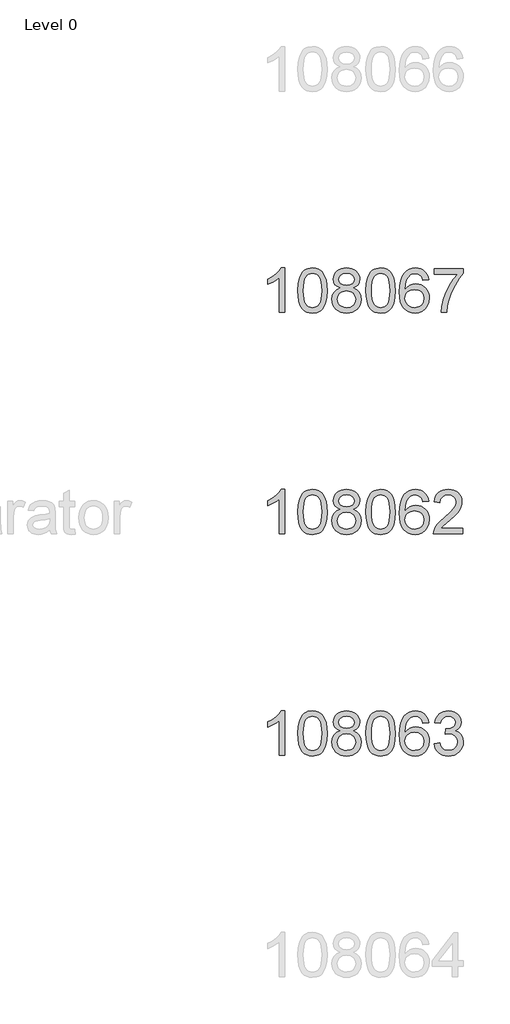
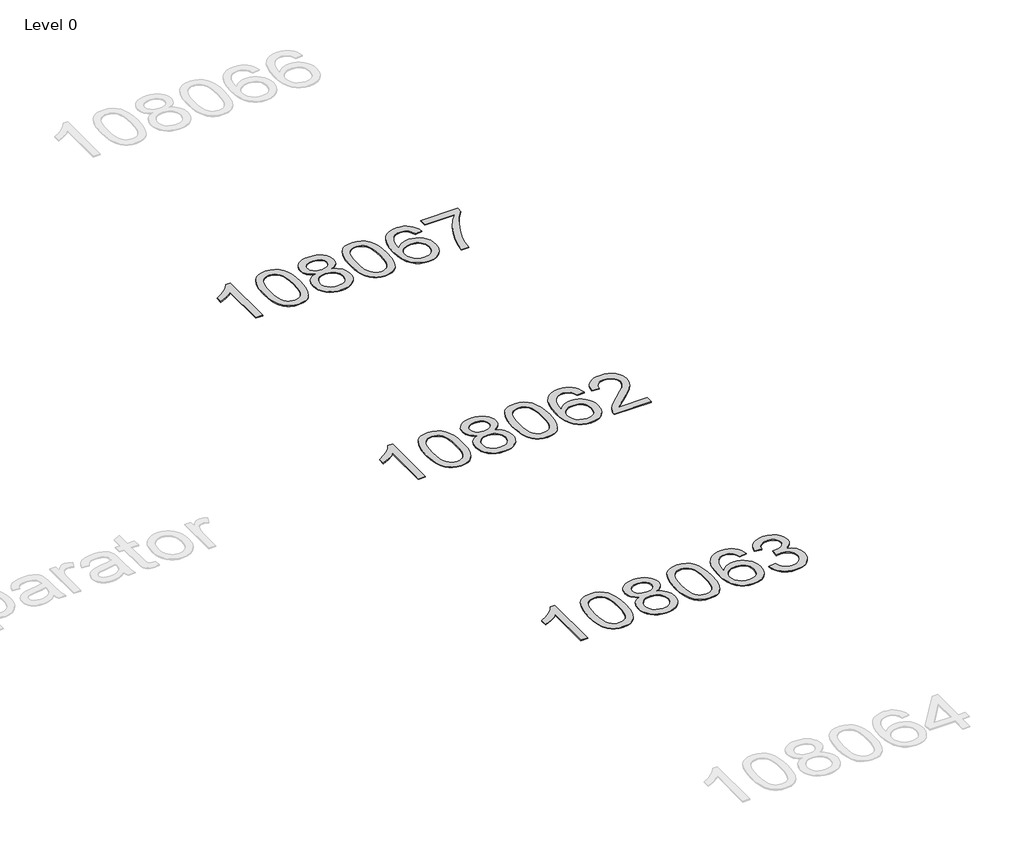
# One storey, part 4 of 9: 3 proxies.
"""IFC4 building model written with IfcOpenShell, lengths in millimetres."""

from ifc_helpers import new_model, si_unit, origin, origin_with_axes, place, context, project, spatial, polyline, outline, extrude, element, save

model = new_model("IFC4")

# Units and contexts
model_context = context("Model", 3, world=origin())
ifc_project = project(units=[si_unit("LENGTHUNIT", "METRE", prefix="MILLI")], contexts=[model_context])

# Site, building, storey
site = spatial("IfcSite", under=ifc_project)
building = spatial("IfcBuilding", under=site)
storey = spatial("IfcBuildingStorey", under=building, Name="Level 0", Elevation=0.0)

# Proxies
placement = place(None, origin())
element("IfcBuildingElementProxy", 1, Name="400mm Arial", ObjectType="400mm Arial", at=placement, inside=storey, context=model_context, shape_type="SweptSolid", body=[
    extrude(outline(polyline([(-3629.592891, 2149.0232018), (-3679.821046, 2149.0232018), (-3679.821046, 2462.1643561), (-3700.7903198, 2445.2049961), (-3727.4004508, 2428.2701616), (-3780.2773562, 2402.9108294), (-3780.2773562, 2450.3921323), (-3740.8281436, 2471.8519153), (-3706.6519062, 2497.3829258), (-3679.7106814, 2524.532617), (-3661.9665065, 2550.8484424), (-3629.592891, 2550.8484424), (-3629.592891, 2149.0232018)])), origin_with_axes(), (0.0, 0.0, 1.0), 5.0),
    extrude(outline(polyline([(-3510.3010227, 2346.6984606), (-3506.60994, 2411.0164961), (-3495.5366919, 2462.3115089), (-3477.1916431, 2501.3683141), (-3465.3335801, 2516.6016944), (-3451.6851581, 2528.9717264), (-3436.2003918, 2538.5427897), (-3418.8332959, 2545.3792634), (-3378.4521156, 2550.8484424), (-3347.5009771, 2547.6110809), (-3319.7872001, 2537.8989962), (-3296.6106344, 2522.0923331), (-3279.2711297, 2500.5712364), (-3266.1745307, 2473.519647), (-3255.726682, 2441.121506), (-3248.8840769, 2399.9800362), (-3246.6032085, 2346.6984606), (-3250.257503, 2282.7483071), (-3261.2203865, 2231.5759215), (-3279.4550707, 2192.4823282), (-3291.2855425, 2177.2029627), (-3304.9247675, 2164.7685512), (-3320.4279279, 2155.1331086), (-3337.8502061, 2148.2506496), (-3378.4521156, 2142.7446824), (-3406.1168416, 2145.1359154), (-3430.642308, 2152.3096143), (-3452.0285146, 2164.2657792), (-3470.2754616, 2181.0044099), (-3487.7866446, 2211.262704), (-3500.2946324, 2248.9644772), (-3507.7994251, 2294.1097294), (-3510.3010227, 2346.6984606)]), holes=[polyline([(-3460.0728676, 2346.7965624), (-3458.6013396, 2303.1320353), (-3454.1867557, 2267.7877726), (-3446.8291158, 2240.7637744), (-3436.5284199, 2222.0600406), (-3424.069483, 2209.3343892), (-3410.23712, 2200.2446383), (-3395.0313308, 2194.7907877), (-3378.4521156, 2192.9728375), (-3361.8729003, 2194.7969191), (-3346.6671112, 2200.2691637), (-3332.8347482, 2209.3895715), (-3320.3758113, 2222.1581425), (-3310.0751154, 2240.8925331), (-3302.7174755, 2267.9103999), (-3298.3028916, 2303.2117431), (-3296.8313636, 2346.7965624), (-3298.2538406, 2389.305327), (-3302.5212718, 2424.0272559), (-3309.633657, 2450.9623494), (-3319.5909964, 2470.1106072), (-3331.8414668, 2483.4585923), (-3345.8332454, 2492.9928673), (-3361.566332, 2498.7134323), (-3379.0407268, 2500.6202873), (-3395.5341029, 2498.9402929), (-3410.4823746, 2493.9003096), (-3423.885542, 2485.5003373), (-3435.743605, 2473.7403762), (-3446.3876574, 2452.8937298), (-3453.9905519, 2424.7875454), (-3458.5522887, 2389.4218229), (-3460.0728676, 2346.7965624)])]), origin_with_axes(), (0.0, 0.0, 1.0), 5.0),
    extrude(outline(polyline([(-3129.4695813, 2370.3410101), (-3156.3617551, 2383.5847619), (-3175.2341015, 2401.5374033), (-3186.3809259, 2423.8310522), (-3190.0965341, 2450.0978267), (-3188.0731831, 2470.5827224), (-3182.0031302, 2489.3630983), (-3171.8863753, 2506.4389542), (-3157.7229185, 2521.8102903), (-3140.1933414, 2534.5144818), (-3119.9782258, 2543.5889044), (-3097.0775716, 2549.0335579), (-3071.4913788, 2550.8484424), (-3045.7825587, 2548.9906383), (-3022.7102263, 2543.4172261), (-3002.2743814, 2534.1282057), (-2984.4750242, 2521.1235772), (-2970.05405, 2505.4518042), (-2959.7533542, 2488.1613504), (-2953.5729366, 2469.2522159), (-2951.5127975, 2448.7244006), (-2955.1793547, 2423.3037547), (-2966.1790263, 2401.3902505), (-2984.6344398, 2383.5479737), (-3010.6682223, 2370.3410101), (-2979.753872, 2354.4117197), (-2957.2517566, 2330.9531112), (-2943.5297582, 2301.0933559), (-2938.9557587, 2265.9606254), (-2941.2243643, 2240.9078615), (-2948.0301812, 2217.9397623), (-2959.3732094, 2197.0563277), (-2975.2534489, 2178.2575577), (-2994.8370338, 2162.7206748), (-3017.2900982, 2151.6229013), (-3042.6126422, 2144.9642371), (-3070.8046658, 2142.7446824), (-3098.9966893, 2144.9734342), (-3124.3192333, 2151.6596895), (-3146.7722978, 2162.8034482), (-3166.3558826, 2178.4047105), (-3182.2361221, 2197.3353048), (-3193.5791503, 2218.4670598), (-3200.3849672, 2241.7999753), (-3202.6535728, 2267.3340515), (-3197.8956324, 2303.8279454), (-3183.621811, 2333.8471162), (-3160.5678726, 2356.3614943), (-3129.4695813, 2370.3410101)]), holes=[polyline([(-3139.868379, 2448.6262987), (-3135.4170068, 2426.7005318), (-3122.0628904, 2409.1893488), (-3100.1984372, 2397.7114306), (-3070.2160546, 2393.8854578), (-3040.9326478, 2397.6869051), (-3019.3992883, 2409.0912469), (-3006.1555365, 2426.0138187), (-3001.7409525, 2446.3699558), (-3006.3026893, 2467.498645), (-3019.9878995, 2484.9730398), (-3041.8155645, 2496.7084755), (-3070.8046658, 2500.6202873), (-3099.977708, 2496.7943146), (-3121.7685848, 2485.3163963), (-3135.3434305, 2468.4919264), (-3139.868379, 2448.6262987)]), polyline([(-3152.4254178, 2269.099885), (-3150.3284904, 2249.8841822), (-3144.0377083, 2231.2816159), (-3132.4249, 2215.05802), (-3114.361894, 2202.9792278), (-3092.7304327, 2195.4744351), (-3070.4122583, 2192.9728375), (-3036.2237582, 2198.23355), (-3022.3300815, 2204.8094407), (-3010.5701204, 2214.0156876), (-2994.5304654, 2237.9157546), (-2989.1839138, 2267.5302552), (-2994.7021437, 2297.6475279), (-3011.2568335, 2322.0748924), (-3023.3356257, 2331.5171969), (-3037.4990825, 2338.2617001), (-3072.07999, 2343.6573027), (-3105.7902435, 2338.3352765), (-3119.5275703, 2331.6827438), (-3131.1863639, 2322.3691979), (-3147.1156543, 2298.4078173), (-3152.4254178, 2269.099885)])]), origin_with_axes(), (0.0, 0.0, 1.0), 5.0),
    extrude(outline(polyline([(-2895.006123, 2346.6984606), (-2891.3150403, 2411.0164961), (-2880.2417923, 2462.3115089), (-2861.8967434, 2501.3683141), (-2850.0386805, 2516.6016944), (-2836.3902584, 2528.9717264), (-2820.9054921, 2538.5427897), (-2803.5383963, 2545.3792634), (-2763.1572159, 2550.8484424), (-2732.2060774, 2547.6110809), (-2704.4923004, 2537.8989962), (-2681.3157347, 2522.0923331), (-2663.97623, 2500.5712364), (-2650.879631, 2473.519647), (-2640.4317823, 2441.121506), (-2633.5891772, 2399.9800362), (-2631.3083089, 2346.6984606), (-2634.9626033, 2282.7483071), (-2645.9254868, 2231.5759215), (-2664.160171, 2192.4823282), (-2675.9906429, 2177.2029627), (-2689.6298678, 2164.7685512), (-2705.1330282, 2155.1331086), (-2722.5553064, 2148.2506496), (-2763.1572159, 2142.7446824), (-2790.821942, 2145.1359154), (-2815.3474083, 2152.3096143), (-2836.733615, 2164.2657792), (-2854.9805619, 2181.0044099), (-2872.4917449, 2211.262704), (-2884.9997327, 2248.9644772), (-2892.5045254, 2294.1097294), (-2895.006123, 2346.6984606)]), holes=[polyline([(-2844.7779679, 2346.7965624), (-2843.3064399, 2303.1320353), (-2838.891856, 2267.7877726), (-2831.5342161, 2240.7637744), (-2821.2335202, 2222.0600406), (-2808.7745833, 2209.3343892), (-2794.9422203, 2200.2446383), (-2779.7364312, 2194.7907877), (-2763.1572159, 2192.9728375), (-2746.5780007, 2194.7969191), (-2731.3722115, 2200.2691637), (-2717.5398485, 2209.3895715), (-2705.0809116, 2222.1581425), (-2694.7802158, 2240.8925331), (-2687.4225759, 2267.9103999), (-2683.0079919, 2303.2117431), (-2681.5364639, 2346.7965624), (-2682.958941, 2389.305327), (-2687.2263721, 2424.0272559), (-2694.3387574, 2450.9623494), (-2704.2960967, 2470.1106072), (-2716.5465671, 2483.4585923), (-2730.5383457, 2492.9928673), (-2746.2714324, 2498.7134323), (-2763.7458271, 2500.6202873), (-2780.2392032, 2498.9402929), (-2795.187475, 2493.9003096), (-2808.5906423, 2485.5003373), (-2820.4487053, 2473.7403762), (-2831.0927577, 2452.8937298), (-2838.6956523, 2424.7875454), (-2843.257389, 2389.4218229), (-2844.7779679, 2346.7965624)])]), origin_with_axes(), (0.0, 0.0, 1.0), 5.0),
    extrude(outline(polyline([(-2329.9393784, 2444.1136129), (-2380.1675335, 2437.8350935), (-2388.2609374, 2462.7284418), (-2399.1992954, 2479.72459), (-2421.9834536, 2495.396363), (-2449.5255523, 2500.6202873), (-2472.8737963, 2497.5791295), (-2494.8486141, 2488.455656), (-2513.7209605, 2469.2399532), (-2529.1352161, 2442.7892377), (-2539.5462765, 2405.3756388), (-2543.4090375, 2353.2712855), (-2523.2613669, 2376.778945), (-2499.1160453, 2393.3458976), (-2472.3219733, 2403.1683468), (-2444.2280516, 2406.4424966), (-2420.0949927, 2404.2045478), (-2397.8258693, 2397.4907014), (-2377.4206813, 2386.3009573), (-2358.8794287, 2370.6353157), (-2343.4713045, 2351.4257442), (-2332.4655014, 2329.6042105), (-2325.8620196, 2305.1707147), (-2323.660859, 2278.1252567), (-2327.8056628, 2242.1586603), (-2340.2400743, 2208.8162888), (-2359.9340238, 2180.5384261), (-2385.8574417, 2159.7653561), (-2416.8331057, 2146.9998508), (-2451.6837933, 2142.7446824), (-2481.6263221, 2145.5651111), (-2508.6687144, 2154.026397), (-2532.8109703, 2168.1285401), (-2554.0530899, 2187.8715405), (-2571.3711348, 2214.089264), (-2583.7411669, 2247.6155765), (-2591.1631861, 2288.450478), (-2593.6371926, 2336.5939684), (-2590.8903403, 2390.5683885), (-2582.6497836, 2436.6333457), (-2568.9155225, 2474.7888399), (-2549.6875569, 2505.0348713), (-2528.8470418, 2525.0783087), (-2504.6833261, 2539.3950496), (-2477.1964097, 2547.9850942), (-2446.3862926, 2550.8484424), (-2423.2526465, 2549.0764775), (-2402.3140296, 2543.7605826), (-2383.5704419, 2534.9007579), (-2367.0218835, 2522.4970033), (-2353.1159441, 2506.9662518), (-2342.3002134, 2488.7254362), (-2334.5746915, 2467.7745565), (-2329.9393784, 2444.1136129)]), holes=[polyline([(-2543.4090375, 2278.9100716), (-2540.5027697, 2256.6532109), (-2531.7839664, 2235.4018943), (-2518.245909, 2217.1304219), (-2500.8818788, 2203.8130936), (-2479.9248678, 2195.6829015), (-2455.607868, 2192.9728375), (-2422.4617002, 2198.5891693), (-2408.5465637, 2205.609584), (-2396.4033922, 2215.4381647), (-2386.5533518, 2227.6763724), (-2379.5176086, 2241.9256683), (-2373.8890141, 2276.457525), (-2379.4440322, 2309.6036927), (-2386.3878049, 2323.2245236), (-2396.1090866, 2334.8771858), (-2408.2890463, 2344.2121914), (-2422.608853, 2350.8800526), (-2457.6680071, 2356.2143415), (-2490.765124, 2350.8800526), (-2518.4421127, 2334.8771858), (-2529.3651423, 2323.3778078), (-2537.1673063, 2310.2168294), (-2541.8486047, 2295.3942507), (-2543.4090375, 2278.9100716)])]), origin_with_axes(), (0.0, 0.0, 1.0), 5.0),
    extrude(outline(polyline([(-2022.2919286, 2199.2513569), (-2022.2919286, 2149.0232018), (-2285.9897427, 2149.0232018), (-2284.8860967, 2166.7060631), (-2280.5941401, 2183.6531603), (-2268.2087796, 2210.7170124), (-2250.08446, 2236.9715241), (-2223.8667365, 2264.4523092), (-2187.2011643, 2295.1949812), (-2132.9998837, 2343.3384717), (-2100.4791153, 2378.8758724), (-2084.2187311, 2407.7178208), (-2078.798603, 2435.7749543), (-2083.9121628, 2460.9258201), (-2099.252842, 2481.8337801), (-2122.8340779, 2495.9236605), (-2152.6693077, 2500.6202873), (-2184.0005909, 2496.0340251), (-2208.3421163, 2482.2752385), (-2224.0506775, 2460.423048), (-2229.4830683, 2431.5565741), (-2279.7112233, 2437.8350935), (-2275.3916756, 2463.7646428), (-2267.5343293, 2486.4200423), (-2256.1391845, 2505.8012921), (-2241.2062412, 2521.9083921), (-2223.0788559, 2534.5696641), (-2202.1003851, 2543.6134298), (-2178.2708288, 2549.0396893), (-2151.5901871, 2550.8484424), (-2124.6704222, 2548.8373542), (-2100.7121072, 2542.8040895), (-2079.7152423, 2532.7486483), (-2061.6798275, 2518.6710306), (-2047.194474, 2501.6135687), (-2036.8477929, 2482.618595), (-2030.6397842, 2461.6861095), (-2028.570448, 2438.8161122), (-2030.8022654, 2414.7934179), (-2037.4977177, 2391.1876565), (-2049.3803062, 2367.177225), (-2067.173532, 2341.9405201), (-2095.5372338, 2311.8109847), (-2139.1312502, 2273.1220615), (-2196.913249, 2224.8068928), (-2219.5747799, 2199.2513569), (-2022.2919286, 2199.2513569)])), origin_with_axes(), (0.0, 0.0, 1.0), 5.0),
])
element("IfcBuildingElementProxy", 2, Name="400mm Arial", ObjectType="400mm Arial", at=placement, inside=storey, context=model_context, shape_type="SweptSolid", body=[
    extrude(outline(polyline([(-3629.592891, 149.0232018), (-3679.821046, 149.0232018), (-3679.821046, 462.1643561), (-3700.7903198, 445.2049961), (-3727.4004508, 428.2701616), (-3780.2773562, 402.9108294), (-3780.2773562, 450.3921323), (-3740.8281436, 471.8519153), (-3706.6519062, 497.3829258), (-3679.7106814, 524.532617), (-3661.9665065, 550.8484424), (-3629.592891, 550.8484424), (-3629.592891, 149.0232018)])), origin_with_axes(), (0.0, 0.0, 1.0), 5.0),
    extrude(outline(polyline([(-3510.3010227, 346.6984606), (-3506.60994, 411.0164961), (-3495.5366919, 462.3115089), (-3477.1916431, 501.3683141), (-3465.3335801, 516.6016944), (-3451.6851581, 528.9717264), (-3436.2003918, 538.5427897), (-3418.8332959, 545.3792634), (-3378.4521156, 550.8484424), (-3347.5009771, 547.6110809), (-3319.7872001, 537.8989962), (-3296.6106344, 522.0923331), (-3279.2711297, 500.5712364), (-3266.1745307, 473.519647), (-3255.726682, 441.121506), (-3248.8840769, 399.9800362), (-3246.6032085, 346.6984606), (-3250.257503, 282.7483071), (-3261.2203865, 231.5759215), (-3279.4550707, 192.4823282), (-3291.2855425, 177.2029627), (-3304.9247675, 164.7685512), (-3320.4279279, 155.1331086), (-3337.8502061, 148.2506496), (-3378.4521156, 142.7446824), (-3406.1168416, 145.1359154), (-3430.642308, 152.3096143), (-3452.0285146, 164.2657792), (-3470.2754616, 181.0044099), (-3487.7866446, 211.262704), (-3500.2946324, 248.9644772), (-3507.7994251, 294.1097294), (-3510.3010227, 346.6984606)]), holes=[polyline([(-3460.0728676, 346.7965624), (-3458.6013396, 303.1320353), (-3454.1867557, 267.7877726), (-3446.8291158, 240.7637744), (-3436.5284199, 222.0600406), (-3424.069483, 209.3343892), (-3410.23712, 200.2446383), (-3395.0313308, 194.7907877), (-3378.4521156, 192.9728375), (-3361.8729003, 194.7969191), (-3346.6671112, 200.2691637), (-3332.8347482, 209.3895715), (-3320.3758113, 222.1581425), (-3310.0751154, 240.8925331), (-3302.7174755, 267.9103999), (-3298.3028916, 303.2117431), (-3296.8313636, 346.7965624), (-3298.2538406, 389.305327), (-3302.5212718, 424.0272559), (-3309.633657, 450.9623494), (-3319.5909964, 470.1106072), (-3331.8414668, 483.4585923), (-3345.8332454, 492.9928673), (-3361.566332, 498.7134323), (-3379.0407268, 500.6202873), (-3395.5341029, 498.9402929), (-3410.4823746, 493.9003096), (-3423.885542, 485.5003373), (-3435.743605, 473.7403762), (-3446.3876574, 452.8937298), (-3453.9905519, 424.7875454), (-3458.5522887, 389.4218229), (-3460.0728676, 346.7965624)])]), origin_with_axes(), (0.0, 0.0, 1.0), 5.0),
    extrude(outline(polyline([(-3129.4695813, 370.3410101), (-3156.3617551, 383.5847619), (-3175.2341015, 401.5374033), (-3186.3809259, 423.8310522), (-3190.0965341, 450.0978267), (-3188.0731831, 470.5827224), (-3182.0031302, 489.3630983), (-3171.8863753, 506.4389542), (-3157.7229185, 521.8102903), (-3140.1933414, 534.5144818), (-3119.9782258, 543.5889044), (-3097.0775716, 549.0335579), (-3071.4913788, 550.8484424), (-3045.7825587, 548.9906383), (-3022.7102263, 543.4172261), (-3002.2743814, 534.1282057), (-2984.4750242, 521.1235772), (-2970.05405, 505.4518042), (-2959.7533542, 488.1613504), (-2953.5729366, 469.2522159), (-2951.5127975, 448.7244006), (-2955.1793547, 423.3037547), (-2966.1790263, 401.3902505), (-2984.6344398, 383.5479737), (-3010.6682223, 370.3410101), (-2979.753872, 354.4117197), (-2957.2517566, 330.9531112), (-2943.5297582, 301.0933559), (-2938.9557587, 265.9606254), (-2941.2243643, 240.9078615), (-2948.0301812, 217.9397623), (-2959.3732094, 197.0563277), (-2975.2534489, 178.2575577), (-2994.8370338, 162.7206748), (-3017.2900982, 151.6229013), (-3042.6126422, 144.9642371), (-3070.8046658, 142.7446824), (-3098.9966893, 144.9734342), (-3124.3192333, 151.6596895), (-3146.7722978, 162.8034482), (-3166.3558826, 178.4047105), (-3182.2361221, 197.3353048), (-3193.5791503, 218.4670598), (-3200.3849672, 241.7999753), (-3202.6535728, 267.3340515), (-3197.8956324, 303.8279454), (-3183.621811, 333.8471162), (-3160.5678726, 356.3614943), (-3129.4695813, 370.3410101)]), holes=[polyline([(-3139.868379, 448.6262987), (-3135.4170068, 426.7005318), (-3122.0628904, 409.1893488), (-3100.1984372, 397.7114306), (-3070.2160546, 393.8854578), (-3040.9326478, 397.6869051), (-3019.3992883, 409.0912469), (-3006.1555365, 426.0138187), (-3001.7409525, 446.3699558), (-3006.3026893, 467.498645), (-3019.9878995, 484.9730398), (-3041.8155645, 496.7084755), (-3070.8046658, 500.6202873), (-3099.977708, 496.7943146), (-3121.7685848, 485.3163963), (-3135.3434305, 468.4919264), (-3139.868379, 448.6262987)]), polyline([(-3152.4254178, 269.099885), (-3150.3284904, 249.8841822), (-3144.0377083, 231.2816159), (-3132.4249, 215.05802), (-3114.361894, 202.9792278), (-3092.7304327, 195.4744351), (-3070.4122583, 192.9728375), (-3036.2237582, 198.23355), (-3022.3300815, 204.8094407), (-3010.5701204, 214.0156876), (-2994.5304654, 237.9157546), (-2989.1839138, 267.5302552), (-2994.7021437, 297.6475279), (-3011.2568335, 322.0748924), (-3023.3356257, 331.5171969), (-3037.4990825, 338.2617001), (-3072.07999, 343.6573027), (-3105.7902435, 338.3352765), (-3119.5275703, 331.6827438), (-3131.1863639, 322.3691979), (-3147.1156543, 298.4078173), (-3152.4254178, 269.099885)])]), origin_with_axes(), (0.0, 0.0, 1.0), 5.0),
    extrude(outline(polyline([(-2895.006123, 346.6984606), (-2891.3150403, 411.0164961), (-2880.2417923, 462.3115089), (-2861.8967434, 501.3683141), (-2850.0386805, 516.6016944), (-2836.3902584, 528.9717264), (-2820.9054921, 538.5427897), (-2803.5383963, 545.3792634), (-2763.1572159, 550.8484424), (-2732.2060774, 547.6110809), (-2704.4923004, 537.8989962), (-2681.3157347, 522.0923331), (-2663.97623, 500.5712364), (-2650.879631, 473.519647), (-2640.4317823, 441.121506), (-2633.5891772, 399.9800362), (-2631.3083089, 346.6984606), (-2634.9626033, 282.7483071), (-2645.9254868, 231.5759215), (-2664.160171, 192.4823282), (-2675.9906429, 177.2029627), (-2689.6298678, 164.7685512), (-2705.1330282, 155.1331086), (-2722.5553064, 148.2506496), (-2763.1572159, 142.7446824), (-2790.821942, 145.1359154), (-2815.3474083, 152.3096143), (-2836.733615, 164.2657792), (-2854.9805619, 181.0044099), (-2872.4917449, 211.262704), (-2884.9997327, 248.9644772), (-2892.5045254, 294.1097294), (-2895.006123, 346.6984606)]), holes=[polyline([(-2844.7779679, 346.7965624), (-2843.3064399, 303.1320353), (-2838.891856, 267.7877726), (-2831.5342161, 240.7637744), (-2821.2335202, 222.0600406), (-2808.7745833, 209.3343892), (-2794.9422203, 200.2446383), (-2779.7364312, 194.7907877), (-2763.1572159, 192.9728375), (-2746.5780007, 194.7969191), (-2731.3722115, 200.2691637), (-2717.5398485, 209.3895715), (-2705.0809116, 222.1581425), (-2694.7802158, 240.8925331), (-2687.4225759, 267.9103999), (-2683.0079919, 303.2117431), (-2681.5364639, 346.7965624), (-2682.958941, 389.305327), (-2687.2263721, 424.0272559), (-2694.3387574, 450.9623494), (-2704.2960967, 470.1106072), (-2716.5465671, 483.4585923), (-2730.5383457, 492.9928673), (-2746.2714324, 498.7134323), (-2763.7458271, 500.6202873), (-2780.2392032, 498.9402929), (-2795.187475, 493.9003096), (-2808.5906423, 485.5003373), (-2820.4487053, 473.7403762), (-2831.0927577, 452.8937298), (-2838.6956523, 424.7875454), (-2843.257389, 389.4218229), (-2844.7779679, 346.7965624)])]), origin_with_axes(), (0.0, 0.0, 1.0), 5.0),
    extrude(outline(polyline([(-2329.9393784, 444.1136129), (-2380.1675335, 437.8350935), (-2388.2609374, 462.7284418), (-2399.1992954, 479.72459), (-2421.9834536, 495.396363), (-2449.5255523, 500.6202873), (-2472.8737963, 497.5791295), (-2494.8486141, 488.455656), (-2513.7209605, 469.2399532), (-2529.1352161, 442.7892377), (-2539.5462765, 405.3756388), (-2543.4090375, 353.2712855), (-2523.2613669, 376.778945), (-2499.1160453, 393.3458976), (-2472.3219733, 403.1683468), (-2444.2280516, 406.4424966), (-2420.0949927, 404.2045478), (-2397.8258693, 397.4907014), (-2377.4206813, 386.3009573), (-2358.8794287, 370.6353157), (-2343.4713045, 351.4257442), (-2332.4655014, 329.6042105), (-2325.8620196, 305.1707147), (-2323.660859, 278.1252567), (-2327.8056628, 242.1586603), (-2340.2400743, 208.8162888), (-2359.9340238, 180.5384261), (-2385.8574417, 159.7653561), (-2416.8331057, 146.9998508), (-2451.6837933, 142.7446824), (-2481.6263221, 145.5651111), (-2508.6687144, 154.026397), (-2532.8109703, 168.1285401), (-2554.0530899, 187.8715405), (-2571.3711348, 214.089264), (-2583.7411669, 247.6155765), (-2591.1631861, 288.450478), (-2593.6371926, 336.5939684), (-2590.8903403, 390.5683885), (-2582.6497836, 436.6333457), (-2568.9155225, 474.7888399), (-2549.6875569, 505.0348713), (-2528.8470418, 525.0783087), (-2504.6833261, 539.3950496), (-2477.1964097, 547.9850942), (-2446.3862926, 550.8484424), (-2423.2526465, 549.0764775), (-2402.3140296, 543.7605826), (-2383.5704419, 534.9007579), (-2367.0218835, 522.4970033), (-2353.1159441, 506.9662518), (-2342.3002134, 488.7254362), (-2334.5746915, 467.7745565), (-2329.9393784, 444.1136129)]), holes=[polyline([(-2543.4090375, 278.9100716), (-2540.5027697, 256.6532109), (-2531.7839664, 235.4018943), (-2518.245909, 217.1304219), (-2500.8818788, 203.8130936), (-2479.9248678, 195.6829015), (-2455.607868, 192.9728375), (-2422.4617002, 198.5891693), (-2408.5465637, 205.609584), (-2396.4033922, 215.4381647), (-2386.5533518, 227.6763724), (-2379.5176086, 241.9256683), (-2373.8890141, 276.457525), (-2379.4440322, 309.6036927), (-2386.3878049, 323.2245236), (-2396.1090866, 334.8771858), (-2408.2890463, 344.2121914), (-2422.608853, 350.8800526), (-2457.6680071, 356.2143415), (-2490.765124, 350.8800526), (-2518.4421127, 334.8771858), (-2529.3651423, 323.3778078), (-2537.1673063, 310.2168294), (-2541.8486047, 295.3942507), (-2543.4090375, 278.9100716)])]), origin_with_axes(), (0.0, 0.0, 1.0), 5.0),
    extrude(outline(polyline([(-2279.7112233, 255.7580314), (-2229.4830683, 262.0365507), (-2218.2381419, 230.4722756), (-2201.7692913, 209.1596453), (-2179.2671759, 197.0195395), (-2149.9224554, 192.9728375), (-2115.4887007, 198.5401184), (-2101.2148793, 205.4992194), (-2088.9030952, 215.241961), (-2071.906947, 240.1598348), (-2066.2415643, 270.3752093), (-2071.8578961, 299.0577422), (-2088.7068914, 322.320147), (-2114.2133764, 337.7344026), (-2145.8021771, 342.8724878), (-2181.0207468, 337.3787834), (-2175.4289404, 387.6069384), (-2167.3845875, 387.0183272), (-2137.2918403, 390.6235708), (-2110.3874037, 401.4393014), (-2099.3141556, 409.6185445), (-2091.4046927, 419.7352993), (-2086.659015, 431.789566), (-2085.0771224, 445.7813446), (-2089.6633846, 467.4741196), (-2103.4221712, 485.0711417), (-2124.4159704, 496.7330009), (-2150.7072704, 500.6202873), (-2177.0476212, 496.6962127), (-2198.5809807, 484.9239889), (-2214.3018046, 465.3036158), (-2223.2045489, 437.8350935), (-2273.432704, 444.1136129), (-2267.479147, 468.0933876), (-2258.6438477, 489.2159455), (-2246.9268062, 507.4812866), (-2232.3280224, 522.8894108), (-2215.3073487, 535.1214871), (-2196.3246378, 543.8586845), (-2175.3798895, 549.1010029), (-2152.4731039, 550.8484424), (-2120.896566, 547.4026144), (-2091.8952021, 537.0651303), (-2067.4433121, 520.7556952), (-2049.5151962, 499.394014), (-2038.5155246, 474.7827086), (-2034.8489673, 448.7244006), (-2038.3315836, 424.4441889), (-2048.7794322, 402.4203201), (-2066.0453605, 383.6583383), (-2089.9822157, 369.1637877), (-2058.5405678, 356.4595962), (-2035.2413748, 334.8281349), (-2020.8204006, 305.4466262), (-2016.0134092, 269.4922925), (-2018.4169049, 244.010333), (-2025.627392, 220.5394617), (-2037.6448705, 199.0796786), (-2054.4693404, 179.6309838), (-2074.9664989, 163.493227), (-2098.0020432, 151.9662578), (-2123.5759732, 145.0500763), (-2151.688289, 142.7446824), (-2177.0966721, 144.7128511), (-2200.2487124, 150.6173571), (-2221.1444097, 160.4582005), (-2239.7837641, 174.2353812), (-2255.4126176, 191.1395589), (-2267.2768119, 210.3613932), (-2275.3763472, 231.900884), (-2279.7112233, 255.7580314)])), origin_with_axes(), (0.0, 0.0, 1.0), 5.0),
])
element("IfcBuildingElementProxy", 3, Name="400mm Arial", ObjectType="400mm Arial", at=placement, inside=storey, context=model_context, shape_type="SweptSolid", body=[
    extrude(outline(polyline([(-3629.592891, 4149.0232018), (-3679.821046, 4149.0232018), (-3679.821046, 4462.1643561), (-3700.7903198, 4445.2049961), (-3727.4004508, 4428.2701616), (-3780.2773562, 4402.9108294), (-3780.2773562, 4450.3921323), (-3740.8281436, 4471.8519153), (-3706.6519062, 4497.3829258), (-3679.7106814, 4524.532617), (-3661.9665065, 4550.8484424), (-3629.592891, 4550.8484424), (-3629.592891, 4149.0232018)])), origin_with_axes(), (0.0, 0.0, 1.0), 5.0),
    extrude(outline(polyline([(-3510.3010227, 4346.6984606), (-3506.60994, 4411.0164961), (-3495.5366919, 4462.3115089), (-3477.1916431, 4501.3683141), (-3465.3335801, 4516.6016944), (-3451.6851581, 4528.9717264), (-3436.2003918, 4538.5427897), (-3418.8332959, 4545.3792634), (-3378.4521156, 4550.8484424), (-3347.5009771, 4547.6110809), (-3319.7872001, 4537.8989962), (-3296.6106344, 4522.0923331), (-3279.2711297, 4500.5712364), (-3266.1745307, 4473.519647), (-3255.726682, 4441.121506), (-3248.8840769, 4399.9800362), (-3246.6032085, 4346.6984606), (-3250.257503, 4282.7483071), (-3261.2203865, 4231.5759215), (-3279.4550707, 4192.4823282), (-3291.2855425, 4177.2029627), (-3304.9247675, 4164.7685512), (-3320.4279279, 4155.1331086), (-3337.8502061, 4148.2506496), (-3378.4521156, 4142.7446824), (-3406.1168416, 4145.1359154), (-3430.642308, 4152.3096143), (-3452.0285146, 4164.2657792), (-3470.2754616, 4181.0044099), (-3487.7866446, 4211.262704), (-3500.2946324, 4248.9644772), (-3507.7994251, 4294.1097294), (-3510.3010227, 4346.6984606)]), holes=[polyline([(-3460.0728676, 4346.7965624), (-3458.6013396, 4303.1320353), (-3454.1867557, 4267.7877726), (-3446.8291158, 4240.7637744), (-3436.5284199, 4222.0600406), (-3424.069483, 4209.3343892), (-3410.23712, 4200.2446383), (-3395.0313308, 4194.7907877), (-3378.4521156, 4192.9728375), (-3361.8729003, 4194.7969191), (-3346.6671112, 4200.2691637), (-3332.8347482, 4209.3895715), (-3320.3758113, 4222.1581425), (-3310.0751154, 4240.8925331), (-3302.7174755, 4267.9103999), (-3298.3028916, 4303.2117431), (-3296.8313636, 4346.7965624), (-3298.2538406, 4389.305327), (-3302.5212718, 4424.0272559), (-3309.633657, 4450.9623494), (-3319.5909964, 4470.1106072), (-3331.8414668, 4483.4585923), (-3345.8332454, 4492.9928673), (-3361.566332, 4498.7134323), (-3379.0407268, 4500.6202873), (-3395.5341029, 4498.9402929), (-3410.4823746, 4493.9003096), (-3423.885542, 4485.5003373), (-3435.743605, 4473.7403762), (-3446.3876574, 4452.8937298), (-3453.9905519, 4424.7875454), (-3458.5522887, 4389.4218229), (-3460.0728676, 4346.7965624)])]), origin_with_axes(), (0.0, 0.0, 1.0), 5.0),
    extrude(outline(polyline([(-3129.4695813, 4370.3410101), (-3156.3617551, 4383.5847619), (-3175.2341015, 4401.5374033), (-3186.3809259, 4423.8310522), (-3190.0965341, 4450.0978267), (-3188.0731831, 4470.5827224), (-3182.0031302, 4489.3630983), (-3171.8863753, 4506.4389542), (-3157.7229185, 4521.8102903), (-3140.1933414, 4534.5144818), (-3119.9782258, 4543.5889044), (-3097.0775716, 4549.0335579), (-3071.4913788, 4550.8484424), (-3045.7825587, 4548.9906383), (-3022.7102263, 4543.4172261), (-3002.2743814, 4534.1282057), (-2984.4750242, 4521.1235772), (-2970.05405, 4505.4518042), (-2959.7533542, 4488.1613504), (-2953.5729366, 4469.2522159), (-2951.5127975, 4448.7244006), (-2955.1793547, 4423.3037547), (-2966.1790263, 4401.3902505), (-2984.6344398, 4383.5479737), (-3010.6682223, 4370.3410101), (-2979.753872, 4354.4117197), (-2957.2517566, 4330.9531112), (-2943.5297582, 4301.0933559), (-2938.9557587, 4265.9606254), (-2941.2243643, 4240.9078615), (-2948.0301812, 4217.9397623), (-2959.3732094, 4197.0563277), (-2975.2534489, 4178.2575577), (-2994.8370338, 4162.7206748), (-3017.2900982, 4151.6229013), (-3042.6126422, 4144.9642371), (-3070.8046658, 4142.7446824), (-3098.9966893, 4144.9734342), (-3124.3192333, 4151.6596895), (-3146.7722978, 4162.8034482), (-3166.3558826, 4178.4047105), (-3182.2361221, 4197.3353048), (-3193.5791503, 4218.4670598), (-3200.3849672, 4241.7999753), (-3202.6535728, 4267.3340515), (-3197.8956324, 4303.8279454), (-3183.621811, 4333.8471162), (-3160.5678726, 4356.3614943), (-3129.4695813, 4370.3410101)]), holes=[polyline([(-3139.868379, 4448.6262987), (-3135.4170068, 4426.7005318), (-3122.0628904, 4409.1893488), (-3100.1984372, 4397.7114306), (-3070.2160546, 4393.8854578), (-3040.9326478, 4397.6869051), (-3019.3992883, 4409.0912469), (-3006.1555365, 4426.0138187), (-3001.7409525, 4446.3699558), (-3006.3026893, 4467.498645), (-3019.9878995, 4484.9730398), (-3041.8155645, 4496.7084755), (-3070.8046658, 4500.6202873), (-3099.977708, 4496.7943146), (-3121.7685848, 4485.3163963), (-3135.3434305, 4468.4919264), (-3139.868379, 4448.6262987)]), polyline([(-3152.4254178, 4269.099885), (-3150.3284904, 4249.8841822), (-3144.0377083, 4231.2816159), (-3132.4249, 4215.05802), (-3114.361894, 4202.9792278), (-3092.7304327, 4195.4744351), (-3070.4122583, 4192.9728375), (-3036.2237582, 4198.23355), (-3022.3300815, 4204.8094407), (-3010.5701204, 4214.0156876), (-2994.5304654, 4237.9157546), (-2989.1839138, 4267.5302552), (-2994.7021437, 4297.6475279), (-3011.2568335, 4322.0748924), (-3023.3356257, 4331.5171969), (-3037.4990825, 4338.2617001), (-3072.07999, 4343.6573027), (-3105.7902435, 4338.3352765), (-3119.5275703, 4331.6827438), (-3131.1863639, 4322.3691979), (-3147.1156543, 4298.4078173), (-3152.4254178, 4269.099885)])]), origin_with_axes(), (0.0, 0.0, 1.0), 5.0),
    extrude(outline(polyline([(-2895.006123, 4346.6984606), (-2891.3150403, 4411.0164961), (-2880.2417923, 4462.3115089), (-2861.8967434, 4501.3683141), (-2850.0386805, 4516.6016944), (-2836.3902584, 4528.9717264), (-2820.9054921, 4538.5427897), (-2803.5383963, 4545.3792634), (-2763.1572159, 4550.8484424), (-2732.2060774, 4547.6110809), (-2704.4923004, 4537.8989962), (-2681.3157347, 4522.0923331), (-2663.97623, 4500.5712364), (-2650.879631, 4473.519647), (-2640.4317823, 4441.121506), (-2633.5891772, 4399.9800362), (-2631.3083089, 4346.6984606), (-2634.9626033, 4282.7483071), (-2645.9254868, 4231.5759215), (-2664.160171, 4192.4823282), (-2675.9906429, 4177.2029627), (-2689.6298678, 4164.7685512), (-2705.1330282, 4155.1331086), (-2722.5553064, 4148.2506496), (-2763.1572159, 4142.7446824), (-2790.821942, 4145.1359154), (-2815.3474083, 4152.3096143), (-2836.733615, 4164.2657792), (-2854.9805619, 4181.0044099), (-2872.4917449, 4211.262704), (-2884.9997327, 4248.9644772), (-2892.5045254, 4294.1097294), (-2895.006123, 4346.6984606)]), holes=[polyline([(-2844.7779679, 4346.7965624), (-2843.3064399, 4303.1320353), (-2838.891856, 4267.7877726), (-2831.5342161, 4240.7637744), (-2821.2335202, 4222.0600406), (-2808.7745833, 4209.3343892), (-2794.9422203, 4200.2446383), (-2779.7364312, 4194.7907877), (-2763.1572159, 4192.9728375), (-2746.5780007, 4194.7969191), (-2731.3722115, 4200.2691637), (-2717.5398485, 4209.3895715), (-2705.0809116, 4222.1581425), (-2694.7802158, 4240.8925331), (-2687.4225759, 4267.9103999), (-2683.0079919, 4303.2117431), (-2681.5364639, 4346.7965624), (-2682.958941, 4389.305327), (-2687.2263721, 4424.0272559), (-2694.3387574, 4450.9623494), (-2704.2960967, 4470.1106072), (-2716.5465671, 4483.4585923), (-2730.5383457, 4492.9928673), (-2746.2714324, 4498.7134323), (-2763.7458271, 4500.6202873), (-2780.2392032, 4498.9402929), (-2795.187475, 4493.9003096), (-2808.5906423, 4485.5003373), (-2820.4487053, 4473.7403762), (-2831.0927577, 4452.8937298), (-2838.6956523, 4424.7875454), (-2843.257389, 4389.4218229), (-2844.7779679, 4346.7965624)])]), origin_with_axes(), (0.0, 0.0, 1.0), 5.0),
    extrude(outline(polyline([(-2329.9393784, 4444.1136129), (-2380.1675335, 4437.8350935), (-2388.2609374, 4462.7284418), (-2399.1992954, 4479.72459), (-2421.9834536, 4495.396363), (-2449.5255523, 4500.6202873), (-2472.8737963, 4497.5791295), (-2494.8486141, 4488.455656), (-2513.7209605, 4469.2399532), (-2529.1352161, 4442.7892377), (-2539.5462765, 4405.3756388), (-2543.4090375, 4353.2712855), (-2523.2613669, 4376.778945), (-2499.1160453, 4393.3458976), (-2472.3219733, 4403.1683468), (-2444.2280516, 4406.4424966), (-2420.0949927, 4404.2045478), (-2397.8258693, 4397.4907014), (-2377.4206813, 4386.3009573), (-2358.8794287, 4370.6353157), (-2343.4713045, 4351.4257442), (-2332.4655014, 4329.6042105), (-2325.8620196, 4305.1707147), (-2323.660859, 4278.1252567), (-2327.8056628, 4242.1586603), (-2340.2400743, 4208.8162888), (-2359.9340238, 4180.5384261), (-2385.8574417, 4159.7653561), (-2416.8331057, 4146.9998508), (-2451.6837933, 4142.7446824), (-2481.6263221, 4145.5651111), (-2508.6687144, 4154.026397), (-2532.8109703, 4168.1285401), (-2554.0530899, 4187.8715405), (-2571.3711348, 4214.089264), (-2583.7411669, 4247.6155765), (-2591.1631861, 4288.450478), (-2593.6371926, 4336.5939684), (-2590.8903403, 4390.5683885), (-2582.6497836, 4436.6333457), (-2568.9155225, 4474.7888399), (-2549.6875569, 4505.0348713), (-2528.8470418, 4525.0783087), (-2504.6833261, 4539.3950496), (-2477.1964097, 4547.9850942), (-2446.3862926, 4550.8484424), (-2423.2526465, 4549.0764775), (-2402.3140296, 4543.7605826), (-2383.5704419, 4534.9007579), (-2367.0218835, 4522.4970033), (-2353.1159441, 4506.9662518), (-2342.3002134, 4488.7254362), (-2334.5746915, 4467.7745565), (-2329.9393784, 4444.1136129)]), holes=[polyline([(-2543.4090375, 4278.9100716), (-2540.5027697, 4256.6532109), (-2531.7839664, 4235.4018943), (-2518.245909, 4217.1304219), (-2500.8818788, 4203.8130936), (-2479.9248678, 4195.6829015), (-2455.607868, 4192.9728375), (-2422.4617002, 4198.5891693), (-2408.5465637, 4205.609584), (-2396.4033922, 4215.4381647), (-2386.5533518, 4227.6763724), (-2379.5176086, 4241.9256683), (-2373.8890141, 4276.457525), (-2379.4440322, 4309.6036927), (-2386.3878049, 4323.2245236), (-2396.1090866, 4334.8771858), (-2408.2890463, 4344.2121914), (-2422.608853, 4350.8800526), (-2457.6680071, 4356.2143415), (-2490.765124, 4350.8800526), (-2518.4421127, 4334.8771858), (-2529.3651423, 4323.3778078), (-2537.1673063, 4310.2168294), (-2541.8486047, 4295.3942507), (-2543.4090375, 4278.9100716)])]), origin_with_axes(), (0.0, 0.0, 1.0), 5.0),
    extrude(outline(polyline([(-2279.7112233, 4494.341768), (-2279.7112233, 4544.569923), (-2016.0134092, 4544.569923), (-2016.0134092, 4503.9557508), (-2053.5986864, 4456.3886088), (-2090.8160815, 4395.8965461), (-2123.6434182, 4327.9977925), (-2148.05852, 4258.210578), (-2160.0269476, 4205.9958601), (-2166.6978744, 4149.0232018), (-2216.9260295, 4149.0232018), (-2211.4936387, 4200.7964613), (-2196.9622999, 4262.3308563), (-2173.7244205, 4327.5563341), (-2142.1724081, 4390.4028416), (-2105.3351576, 4447.2160844), (-2066.2415643, 4494.341768), (-2279.7112233, 4494.341768)])), origin_with_axes(), (0.0, 0.0, 1.0), 5.0),
])

save(model, "model.ifc")
